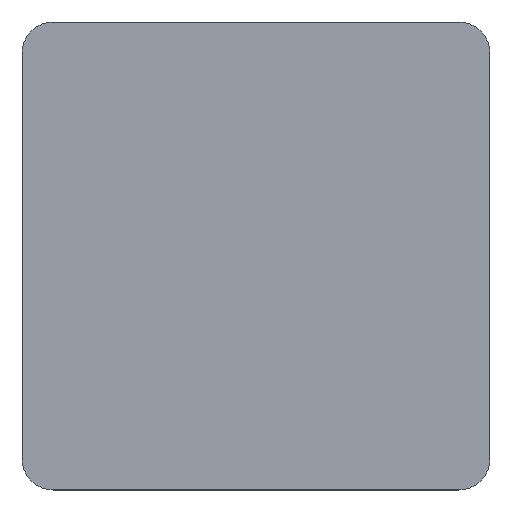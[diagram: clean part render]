
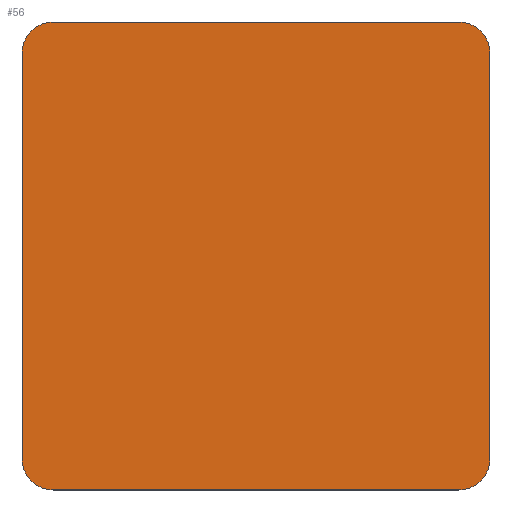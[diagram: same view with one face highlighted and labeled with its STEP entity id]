
A CAD part, top view. The second image highlights one B-rep face of the part: STEP entity #56.
In plain terms, the highlighted planar face has unit normal (0, 0, 1).
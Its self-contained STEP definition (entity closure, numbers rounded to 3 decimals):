
#56=ADVANCED_FACE('',(#114),#116,.T.);
#114=FACE_BOUND('',#115,.T.);
#115=EDGE_LOOP('',(#160,#161,#162,#163,#164,#165,#166,#167));
#116=PLANE('',#117);
#117=AXIS2_PLACEMENT_3D('',#118,#119,#120);
#118=CARTESIAN_POINT('',(0.,0.,0.));
#119=DIRECTION('',(0.,0.,1.));
#120=DIRECTION('',(-1.,0.,0.));
#160=ORIENTED_EDGE('',*,*,#178,.T.);
#161=ORIENTED_EDGE('',*,*,#182,.T.);
#162=ORIENTED_EDGE('',*,*,#185,.T.);
#163=ORIENTED_EDGE('',*,*,#188,.T.);
#164=ORIENTED_EDGE('',*,*,#191,.T.);
#165=ORIENTED_EDGE('',*,*,#194,.T.);
#166=ORIENTED_EDGE('',*,*,#197,.T.);
#167=ORIENTED_EDGE('',*,*,#199,.T.);
#178=EDGE_CURVE('',#205,#203,#206,.T.);
#182=EDGE_CURVE('',#203,#210,#212,.T.);
#185=EDGE_CURVE('',#210,#215,#217,.T.);
#188=EDGE_CURVE('',#215,#220,#222,.T.);
#191=EDGE_CURVE('',#220,#225,#227,.T.);
#194=EDGE_CURVE('',#225,#230,#232,.T.);
#197=EDGE_CURVE('',#230,#235,#237,.T.);
#199=EDGE_CURVE('',#235,#205,#239,.T.);
#203=VERTEX_POINT('',#245);
#205=VERTEX_POINT('',#249);
#206=LINE('',#250,#251);
#210=VERTEX_POINT('',#261);
#212=CIRCLE('',#265,10.);
#215=VERTEX_POINT('',#273);
#217=LINE('',#277,#278);
#220=VERTEX_POINT('',#285);
#222=CIRCLE('',#289,10.);
#225=VERTEX_POINT('',#297);
#227=LINE('',#301,#302);
#230=VERTEX_POINT('',#309);
#232=CIRCLE('',#313,10.);
#235=VERTEX_POINT('',#321);
#237=LINE('',#325,#326);
#239=CIRCLE('',#332,10.);
#245=CARTESIAN_POINT('',(65.,-75.,0.));
#249=CARTESIAN_POINT('',(-65.,-75.,0.));
#250=CARTESIAN_POINT('',(-65.,-75.,0.));
#251=VECTOR('',#252,1.);
#252=DIRECTION('',(1.,0.,0.));
#261=CARTESIAN_POINT('',(75.,-65.,0.));
#265=AXIS2_PLACEMENT_3D('',#266,#267,#268);
#266=CARTESIAN_POINT('',(65.,-65.,0.));
#267=DIRECTION('',(0.,0.,1.));
#268=DIRECTION('',(0.,-1.,0.));
#273=CARTESIAN_POINT('',(75.,65.,0.));
#277=CARTESIAN_POINT('',(75.,-65.,0.));
#278=VECTOR('',#279,1.);
#279=DIRECTION('',(0.,1.,0.));
#285=CARTESIAN_POINT('',(65.,75.,0.));
#289=AXIS2_PLACEMENT_3D('',#290,#291,#292);
#290=CARTESIAN_POINT('',(65.,65.,0.));
#291=DIRECTION('',(0.,0.,1.));
#292=DIRECTION('',(1.,0.,0.));
#297=CARTESIAN_POINT('',(-65.,75.,0.));
#301=CARTESIAN_POINT('',(65.,75.,0.));
#302=VECTOR('',#303,1.);
#303=DIRECTION('',(-1.,0.,0.));
#309=CARTESIAN_POINT('',(-75.,65.,0.));
#313=AXIS2_PLACEMENT_3D('',#314,#315,#316);
#314=CARTESIAN_POINT('',(-65.,65.,0.));
#315=DIRECTION('',(0.,0.,1.));
#316=DIRECTION('',(0.,1.,0.));
#321=CARTESIAN_POINT('',(-75.,-65.,0.));
#325=CARTESIAN_POINT('',(-75.,65.,0.));
#326=VECTOR('',#327,1.);
#327=DIRECTION('',(0.,-1.,0.));
#332=AXIS2_PLACEMENT_3D('',#333,#334,#335);
#333=CARTESIAN_POINT('',(-65.,-65.,0.));
#334=DIRECTION('',(0.,0.,1.));
#335=DIRECTION('',(-1.,0.,0.));
